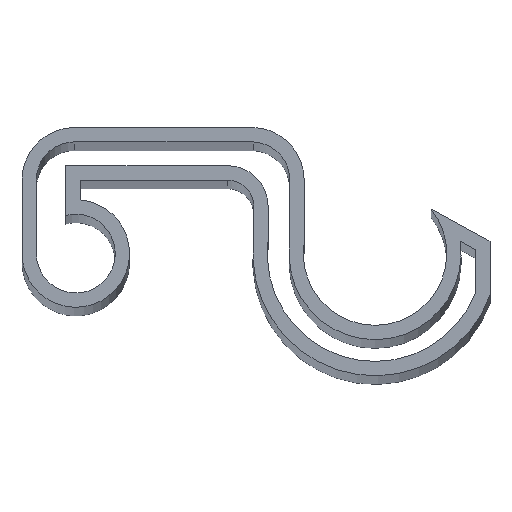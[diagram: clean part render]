
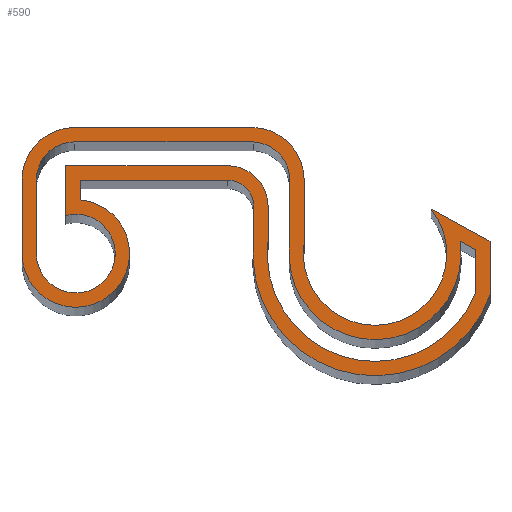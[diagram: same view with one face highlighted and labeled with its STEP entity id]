
A CAD part, top view. The second image highlights one B-rep face of the part: STEP entity #590.
In plain terms, the highlighted planar face has unit normal (0, 0, 1).
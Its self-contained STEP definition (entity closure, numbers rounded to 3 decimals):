
#16=FACE_BOUND('',#114,.T.);
#17=CIRCLE('',#595,2.2);
#19=CIRCLE('',#599,2.128);
#21=CIRCLE('',#603,2.128);
#23=CIRCLE('',#607,4.8);
#25=CIRCLE('',#612,6.016);
#27=CIRCLE('',#616,2.264);
#30=CIRCLE('',#621,1.464);
#32=CIRCLE('',#626,3.);
#34=CIRCLE('',#630,2.928);
#36=CIRCLE('',#634,2.928);
#38=CIRCLE('',#638,4.);
#40=CIRCLE('',#643,6.816);
#82=FACE_OUTER_BOUND('',#113,.T.);
#113=EDGE_LOOP('',(#515,#516,#517,#518,#519,#520,#521,#522,#523,#524,#525,
#526,#527,#528));
#114=EDGE_LOOP('',(#529,#530,#531,#532,#533,#534,#535,#536,#537,#538,#539,
#540,#541,#542));
#115=LINE('',#821,#175);
#120=LINE('',#835,#180);
#124=LINE('',#847,#184);
#128=LINE('',#859,#188);
#132=LINE('',#871,#192);
#135=LINE('',#877,#195);
#139=LINE('',#889,#199);
#143=LINE('',#900,#203);
#148=LINE('',#915,#208);
#151=LINE('',#921,#211);
#155=LINE('',#933,#215);
#159=LINE('',#945,#219);
#163=LINE('',#957,#223);
#167=LINE('',#969,#227);
#170=LINE('',#975,#230);
#174=LINE('',#985,#234);
#175=VECTOR('',#651,2.773);
#180=VECTOR('',#664,4.099);
#184=VECTOR('',#676,9.985);
#188=VECTOR('',#688,3.441);
#192=VECTOR('',#700,0.984);
#195=VECTOR('',#705,2.382);
#199=VECTOR('',#717,1.839);
#203=VECTOR('',#729,9.031);
#208=VECTOR('',#742,8.231);
#211=VECTOR('',#747,1.108);
#215=VECTOR('',#759,4.099);
#219=VECTOR('',#771,10.002);
#223=VECTOR('',#783,3.499);
#227=VECTOR('',#795,3.737);
#230=VECTOR('',#800,3.);
#234=VECTOR('',#812,1.787);
#235=VERTEX_POINT('',#819);
#236=VERTEX_POINT('',#820);
#239=VERTEX_POINT('',#828);
#241=VERTEX_POINT('',#834);
#243=VERTEX_POINT('',#840);
#245=VERTEX_POINT('',#846);
#247=VERTEX_POINT('',#852);
#249=VERTEX_POINT('',#858);
#251=VERTEX_POINT('',#864);
#253=VERTEX_POINT('',#870);
#255=VERTEX_POINT('',#876);
#257=VERTEX_POINT('',#882);
#259=VERTEX_POINT('',#888);
#261=VERTEX_POINT('',#894);
#265=VERTEX_POINT('',#906);
#266=VERTEX_POINT('',#908);
#268=VERTEX_POINT('',#914);
#270=VERTEX_POINT('',#920);
#272=VERTEX_POINT('',#926);
#274=VERTEX_POINT('',#932);
#276=VERTEX_POINT('',#938);
#278=VERTEX_POINT('',#944);
#280=VERTEX_POINT('',#950);
#282=VERTEX_POINT('',#956);
#284=VERTEX_POINT('',#962);
#286=VERTEX_POINT('',#968);
#288=VERTEX_POINT('',#974);
#290=VERTEX_POINT('',#980);
#291=EDGE_CURVE('',#235,#236,#115,.T.);
#295=EDGE_CURVE('',#236,#239,#17,.T.);
#298=EDGE_CURVE('',#239,#241,#120,.T.);
#301=EDGE_CURVE('',#241,#243,#19,.T.);
#304=EDGE_CURVE('',#243,#245,#124,.T.);
#307=EDGE_CURVE('',#245,#247,#21,.T.);
#310=EDGE_CURVE('',#247,#249,#128,.T.);
#313=EDGE_CURVE('',#249,#251,#23,.T.);
#316=EDGE_CURVE('',#251,#253,#132,.T.);
#319=EDGE_CURVE('',#253,#255,#135,.T.);
#322=EDGE_CURVE('',#255,#257,#25,.T.);
#325=EDGE_CURVE('',#257,#259,#139,.T.);
#328=EDGE_CURVE('',#259,#261,#27,.T.);
#331=EDGE_CURVE('',#261,#235,#143,.T.);
#335=EDGE_CURVE('',#266,#265,#30,.T.);
#338=EDGE_CURVE('',#268,#266,#148,.T.);
#341=EDGE_CURVE('',#270,#268,#151,.T.);
#344=EDGE_CURVE('',#272,#270,#32,.T.);
#347=EDGE_CURVE('',#274,#272,#155,.T.);
#350=EDGE_CURVE('',#276,#274,#34,.T.);
#353=EDGE_CURVE('',#278,#276,#159,.T.);
#356=EDGE_CURVE('',#280,#278,#36,.T.);
#359=EDGE_CURVE('',#282,#280,#163,.T.);
#362=EDGE_CURVE('',#284,#282,#38,.T.);
#365=EDGE_CURVE('',#286,#284,#167,.T.);
#368=EDGE_CURVE('',#288,#286,#170,.T.);
#371=EDGE_CURVE('',#290,#288,#40,.T.);
#374=EDGE_CURVE('',#265,#290,#174,.T.);
#515=ORIENTED_EDGE('',*,*,#374,.T.);
#516=ORIENTED_EDGE('',*,*,#371,.T.);
#517=ORIENTED_EDGE('',*,*,#368,.T.);
#518=ORIENTED_EDGE('',*,*,#365,.T.);
#519=ORIENTED_EDGE('',*,*,#362,.T.);
#520=ORIENTED_EDGE('',*,*,#359,.T.);
#521=ORIENTED_EDGE('',*,*,#356,.T.);
#522=ORIENTED_EDGE('',*,*,#353,.T.);
#523=ORIENTED_EDGE('',*,*,#350,.T.);
#524=ORIENTED_EDGE('',*,*,#347,.T.);
#525=ORIENTED_EDGE('',*,*,#344,.T.);
#526=ORIENTED_EDGE('',*,*,#341,.T.);
#527=ORIENTED_EDGE('',*,*,#338,.T.);
#528=ORIENTED_EDGE('',*,*,#335,.T.);
#529=ORIENTED_EDGE('',*,*,#291,.T.);
#530=ORIENTED_EDGE('',*,*,#295,.T.);
#531=ORIENTED_EDGE('',*,*,#298,.T.);
#532=ORIENTED_EDGE('',*,*,#301,.T.);
#533=ORIENTED_EDGE('',*,*,#304,.T.);
#534=ORIENTED_EDGE('',*,*,#307,.T.);
#535=ORIENTED_EDGE('',*,*,#310,.T.);
#536=ORIENTED_EDGE('',*,*,#313,.T.);
#537=ORIENTED_EDGE('',*,*,#316,.T.);
#538=ORIENTED_EDGE('',*,*,#319,.T.);
#539=ORIENTED_EDGE('',*,*,#322,.T.);
#540=ORIENTED_EDGE('',*,*,#325,.T.);
#541=ORIENTED_EDGE('',*,*,#328,.T.);
#542=ORIENTED_EDGE('',*,*,#331,.T.);
#560=PLANE('',#646);
#590=ADVANCED_FACE('',(#82,#16),#560,.T.);
#595=AXIS2_PLACEMENT_3D('',#829,#657,#658);
#599=AXIS2_PLACEMENT_3D('',#841,#669,#670);
#603=AXIS2_PLACEMENT_3D('',#853,#681,#682);
#607=AXIS2_PLACEMENT_3D('',#865,#693,#694);
#612=AXIS2_PLACEMENT_3D('',#883,#710,#711);
#616=AXIS2_PLACEMENT_3D('',#895,#722,#723);
#621=AXIS2_PLACEMENT_3D('',#909,#736,#737);
#626=AXIS2_PLACEMENT_3D('',#927,#753,#754);
#630=AXIS2_PLACEMENT_3D('',#939,#765,#766);
#634=AXIS2_PLACEMENT_3D('',#951,#777,#778);
#638=AXIS2_PLACEMENT_3D('',#963,#789,#790);
#643=AXIS2_PLACEMENT_3D('',#981,#806,#807);
#646=AXIS2_PLACEMENT_3D('',#987,#815,#816);
#651=DIRECTION('',(0.,-1.,0.));
#657=DIRECTION('center_axis',(0.,0.,-1.));
#658=DIRECTION('ref_axis',(-0.257,0.967,0.));
#664=DIRECTION('',(0.,1.,0.));
#669=DIRECTION('center_axis',(0.,0.,-1.));
#670=DIRECTION('ref_axis',(-1.,0.,0.));
#676=DIRECTION('',(1.,0.,0.));
#681=DIRECTION('center_axis',(0.,0.,-1.));
#682=DIRECTION('ref_axis',(0.048,0.999,0.));
#688=DIRECTION('',(0.,-1.,0.));
#693=DIRECTION('center_axis',(0.,0.,1.));
#694=DIRECTION('ref_axis',(-0.99,-0.144,0.));
#700=DIRECTION('',(0.877,-0.48,0.));
#705=DIRECTION('',(0.,-1.,0.));
#710=DIRECTION('center_axis',(0.,0.,-1.));
#711=DIRECTION('ref_axis',(0.933,-0.36,0.));
#717=DIRECTION('',(0.,1.,0.));
#722=DIRECTION('center_axis',(0.,0.,1.));
#723=DIRECTION('ref_axis',(0.,-1.,0.));
#729=DIRECTION('',(-1.,0.,0.));
#736=DIRECTION('center_axis',(0.,0.,-1.));
#737=DIRECTION('ref_axis',(1.,0.,0.));
#742=DIRECTION('',(1.,0.,0.));
#747=DIRECTION('',(0.,1.,0.));
#753=DIRECTION('center_axis',(0.,0.,1.));
#754=DIRECTION('ref_axis',(1.,0.,0.));
#759=DIRECTION('',(0.,-1.,0.));
#765=DIRECTION('center_axis',(0.,0.,1.));
#766=DIRECTION('ref_axis',(0.,-1.,0.));
#771=DIRECTION('',(-1.,0.,0.));
#777=DIRECTION('center_axis',(0.,0.,1.));
#778=DIRECTION('ref_axis',(-1.,0.,0.));
#783=DIRECTION('',(0.,1.,0.));
#789=DIRECTION('center_axis',(0.,0.,-1.));
#790=DIRECTION('ref_axis',(-0.988,0.152,0.));
#795=DIRECTION('',(-0.877,0.48,0.));
#800=DIRECTION('',(0.,1.,0.));
#806=DIRECTION('center_axis',(0.,0.,1.));
#807=DIRECTION('ref_axis',(0.992,-0.125,0.));
#812=DIRECTION('',(0.,-1.,0.));
#815=DIRECTION('center_axis',(0.,0.,1.));
#816=DIRECTION('ref_axis',(1.,0.,0.));
#819=CARTESIAN_POINT('',(2.676,0.099,278.));
#820=CARTESIAN_POINT('',(2.676,-2.674,278.));
#821=CARTESIAN_POINT('',(2.676,-3.233,278.));
#828=CARTESIAN_POINT('',(1.04,-4.8,278.));
#829=CARTESIAN_POINT('Origin',(3.24,-4.8,278.));
#834=CARTESIAN_POINT('',(1.04,-0.701,278.));
#835=CARTESIAN_POINT('',(1.04,-2.247,278.));
#840=CARTESIAN_POINT('',(3.168,1.427,278.));
#841=CARTESIAN_POINT('Origin',(3.168,-0.701,278.));
#846=CARTESIAN_POINT('',(13.153,1.427,278.));
#847=CARTESIAN_POINT('',(12.983,1.427,278.));
#852=CARTESIAN_POINT('',(15.179,-0.698,278.));
#853=CARTESIAN_POINT('Origin',(13.051,-0.698,278.));
#858=CARTESIAN_POINT('',(15.179,-4.139,278.));
#859=CARTESIAN_POINT('',(15.179,-3.966,278.));
#864=CARTESIAN_POINT('',(24.683,-4.116,278.));
#865=CARTESIAN_POINT('Origin',(19.933,-4.805,278.));
#870=CARTESIAN_POINT('',(25.546,-4.588,278.));
#871=CARTESIAN_POINT('',(20.479,-1.816,278.));
#876=CARTESIAN_POINT('',(25.546,-6.969,278.));
#877=CARTESIAN_POINT('',(25.546,-5.381,278.));
#882=CARTESIAN_POINT('',(13.97,-4.004,278.));
#883=CARTESIAN_POINT('Origin',(19.933,-4.805,278.));
#888=CARTESIAN_POINT('',(13.97,-2.165,278.));
#889=CARTESIAN_POINT('',(13.97,-2.979,278.));
#894=CARTESIAN_POINT('',(11.706,0.099,278.));
#895=CARTESIAN_POINT('Origin',(11.706,-2.165,278.));
#900=CARTESIAN_POINT('',(7.745,0.099,278.));
#906=CARTESIAN_POINT('',(13.17,-2.165,278.));
#908=CARTESIAN_POINT('',(11.706,-0.701,278.));
#909=CARTESIAN_POINT('Origin',(11.706,-2.165,278.));
#914=CARTESIAN_POINT('',(3.476,-0.701,278.));
#915=CARTESIAN_POINT('',(5.516,-0.701,278.));
#920=CARTESIAN_POINT('',(3.476,-1.809,278.));
#921=CARTESIAN_POINT('',(3.476,-0.701,278.));
#926=CARTESIAN_POINT('',(0.24,-4.8,278.));
#927=CARTESIAN_POINT('Origin',(3.24,-4.8,278.));
#932=CARTESIAN_POINT('',(0.24,-0.701,278.));
#933=CARTESIAN_POINT('',(0.24,-4.8,278.));
#938=CARTESIAN_POINT('',(3.168,2.227,278.));
#939=CARTESIAN_POINT('Origin',(3.168,-0.701,278.));
#944=CARTESIAN_POINT('',(13.17,2.227,278.));
#945=CARTESIAN_POINT('',(3.168,2.227,278.));
#950=CARTESIAN_POINT('',(15.979,-0.698,278.));
#951=CARTESIAN_POINT('Origin',(13.051,-0.698,278.));
#956=CARTESIAN_POINT('',(15.979,-4.198,278.));
#957=CARTESIAN_POINT('',(15.979,-0.698,278.));
#962=CARTESIAN_POINT('',(23.067,-2.32,278.));
#963=CARTESIAN_POINT('Origin',(19.933,-4.805,278.));
#968=CARTESIAN_POINT('',(26.346,-4.113,278.));
#969=CARTESIAN_POINT('',(23.067,-2.32,278.));
#974=CARTESIAN_POINT('',(26.346,-7.113,278.));
#975=CARTESIAN_POINT('',(26.346,-4.113,278.));
#980=CARTESIAN_POINT('',(13.17,-3.952,278.));
#981=CARTESIAN_POINT('Origin',(19.933,-4.805,278.));
#985=CARTESIAN_POINT('',(13.17,-3.952,278.));
#987=CARTESIAN_POINT('Origin',(12.814,-3.793,278.));
